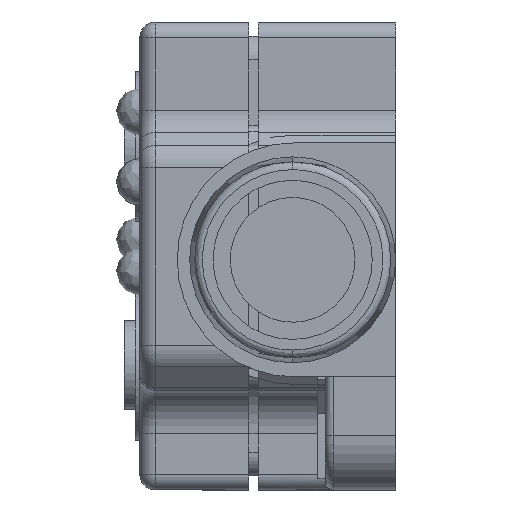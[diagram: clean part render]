
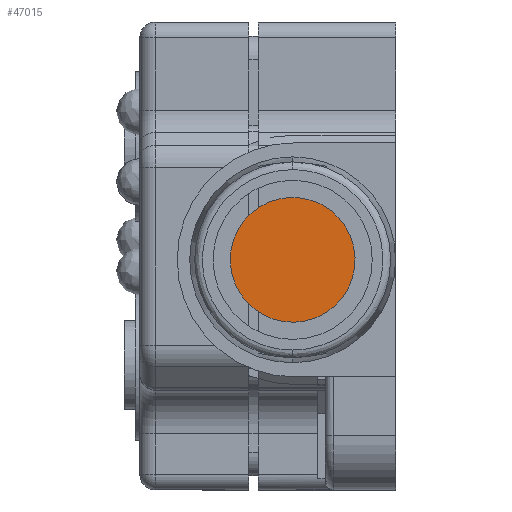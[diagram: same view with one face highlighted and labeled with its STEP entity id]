
A CAD part, left-side view. The second image highlights one B-rep face of the part: STEP entity #47015.
In plain terms, the highlighted planar face has unit normal (-1, 0, 0).
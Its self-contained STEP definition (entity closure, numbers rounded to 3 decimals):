
#2858 = CIRCLE ( 'NONE', #53141, 4. ) ;
#15036 = DIRECTION ( 'NONE',  ( -1., 0., 0. ) ) ;
#15601 = VERTEX_POINT ( 'NONE', #22994 ) ;
#17215 = ORIENTED_EDGE ( 'NONE', *, *, #49420, .F. ) ;
#17440 = DIRECTION ( 'NONE',  ( 1., 0., 0. ) ) ;
#17484 = AXIS2_PLACEMENT_3D ( 'NONE', #43647, #15036, #48349 ) ;
#17880 = ORIENTED_EDGE ( 'NONE', *, *, #50972, .F. ) ;
#19059 = PLANE ( 'NONE',  #17484 ) ;
#19580 = VERTEX_POINT ( 'NONE', #27801 ) ;
#20487 = FACE_OUTER_BOUND ( 'NONE', #59331, .T. ) ;
#20757 = CIRCLE ( 'NONE', #25272, 4. ) ;
#22994 = CARTESIAN_POINT ( 'NONE',  ( -53.6, 3.933, -18.227 ) ) ;
#24998 = CARTESIAN_POINT ( 'NONE',  ( -53.6, 6.6, -15.246 ) ) ;
#25272 = AXIS2_PLACEMENT_3D ( 'NONE', #24998, #58126, #29873 ) ;
#27801 = CARTESIAN_POINT ( 'NONE',  ( -53.6, 9.267, -12.264 ) ) ;
#29873 = DIRECTION ( 'NONE',  ( 0., -0.667, -0.745 ) ) ;
#43647 = CARTESIAN_POINT ( 'NONE',  ( -53.6, 6.6, -15.246 ) ) ;
#45990 = CARTESIAN_POINT ( 'NONE',  ( -53.6, 6.6, -15.246 ) ) ;
#47015 = ADVANCED_FACE ( 'NONE', ( #20487 ), #19059, .T. ) ;
#48349 = DIRECTION ( 'NONE',  ( 0., 0.667, 0.745 ) ) ;
#49420 = EDGE_CURVE ( 'NONE', #15601, #19580, #20757, .T. ) ;
#50684 = DIRECTION ( 'NONE',  ( 0., -0.667, -0.745 ) ) ;
#50972 = EDGE_CURVE ( 'NONE', #19580, #15601, #2858, .T. ) ;
#53141 = AXIS2_PLACEMENT_3D ( 'NONE', #45990, #17440, #50684 ) ;
#58126 = DIRECTION ( 'NONE',  ( 1., 0., 0. ) ) ;
#59331 = EDGE_LOOP ( 'NONE', ( #17215, #17880 ) ) ;
